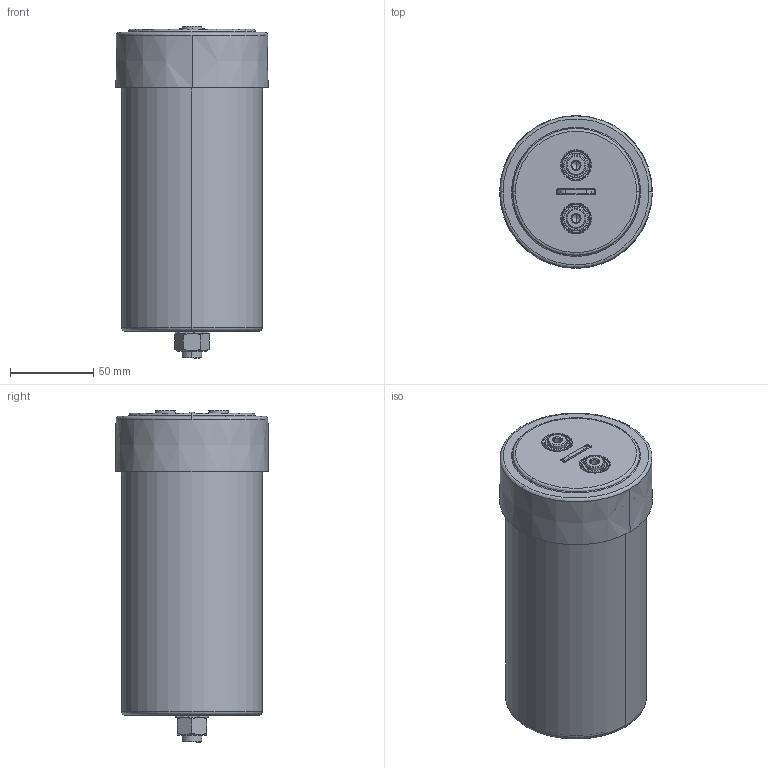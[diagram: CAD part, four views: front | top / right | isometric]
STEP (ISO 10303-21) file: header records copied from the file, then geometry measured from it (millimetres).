
FILE_DESCRIPTION (( 'STEP AP203' ), '1' );
FILE_NAME ('B25680Cx_85x182_184.STEP', '2021-09-13T03:54:52', ( '' ), ( '' ), 'SwSTEP 2.0', 'SolidWorks 2017', '' );
FILE_SCHEMA (( 'CONFIG_CONTROL_DESIGN' ));
Length unit declared in the file: millimetre
Products named in the file (1): B25680Cx_85x182_184
Bounding box: 92.08 x 92.08 x 200 mm (x, y, z)
Volume: 91289.1 mm3; surface area: 169250.2 mm2
Topology: 1 solids, 9 shells, 512 faces, 1230 edges, 772 vertices
Faces by surface type: plane 189, cylinder 168, bspline 64, cone 61, torus 30
Entity records: 19256 total; most frequent: CARTESIAN_POINT 7249, DIRECTION 2594, ORIENTED_EDGE 2452, EDGE_CURVE 1226, AXIS2_PLACEMENT_3D 1041, VERTEX_POINT 772, CIRCLE 592, EDGE_LOOP 572
